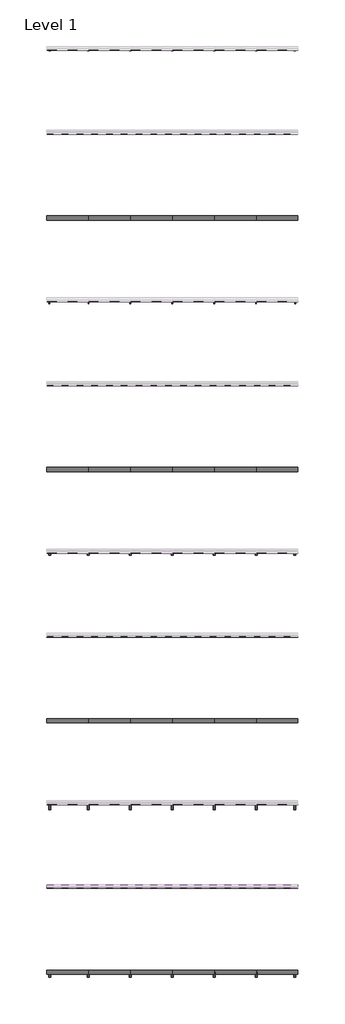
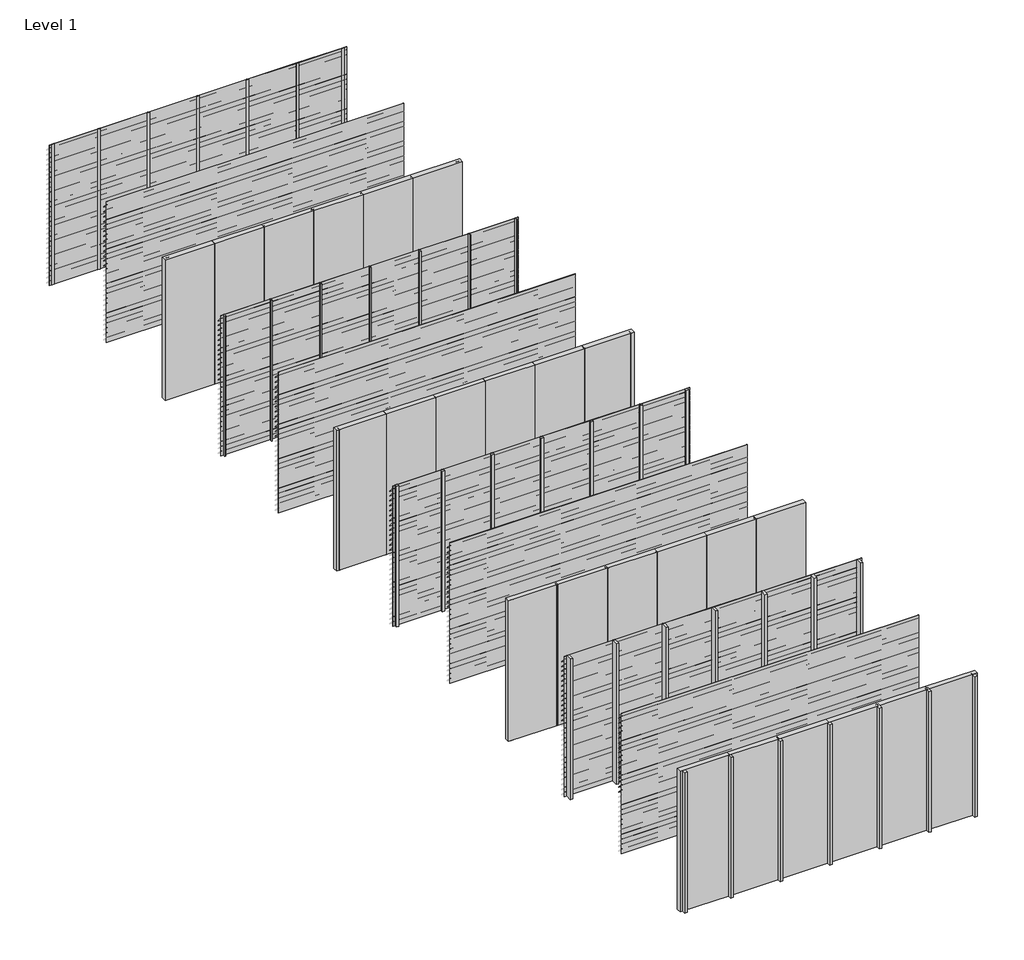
# One storey, part 1 of 9: 56 members, 52 plates, 16 proxies.
"""IFC4 building model written with IfcOpenShell, lengths in millimetres."""

from ifc_helpers import new_model, si_unit, frame, origin, origin_with_axes, place, context, project, spatial, polyline, outline, extrude, transform, mapped, element, save
from components import rectangular_mullion_bbbcbd30, rectangular_mullion_f8d4a220, rectangular_mullion_81aaf6fe, rectangular_mullion_6e08dc26, rectangular_mullion_75c52e10, rectangular_mullion_40295cf1, rectangular_mullion_7f158cb3, rectangular_mullion_66519e13, rectangular_mullion_5829b51c, rectangular_mullion_3b5b8a15, rectangular_mullion_81543344, rectangular_mullion_041a21c4, empty_system_panel_empty_e246a7f8, empty_system_panel_empty_98ea7a2b

model = new_model("IFC4")

# Units and contexts
model_context = context("Model", 3, world=origin())
ifc_project = project(units=[si_unit("LENGTHUNIT", "METRE", prefix="MILLI")], contexts=[model_context])

# Site, building, storey
site = spatial("IfcSite", under=ifc_project)
building = spatial("IfcBuilding", under=site)
storey = spatial("IfcBuildingStorey", under=building, Name="Level 1", Elevation=0.0)

# Proxies
placement = place(None, origin())
element("IfcBuildingElementProxy", 1, Name="Wall Sweeps", at=placement, inside=storey, context=model_context, shape_type="SweptSolid", body=[
    extrude(outline(polyline([(-19995.0, 2940.0), (-19995.0, 2935.6232888), (-19908.0, 2839.0), (-19908.0, 2829.0), (-19997.0, 2927.8445138), (-19997.0, 2940.0), (-19995.0, 2940.0)])), frame((0.0, 0.0, 0.0), z_axis=(1.0, 0.0, 0.0), x_axis=(0.0, 1.0, 0.0)), (0.0, 0.0, 1.0), 6000.0),
])
element("IfcBuildingElementProxy", 2, Name="Wall Sweeps", at=placement, inside=storey, context=model_context, shape_type="SweptSolid", body=[
    extrude(outline(polyline([(-19995.0, 2835.0), (-19995.0, 2830.6232888), (-19908.0, 2734.0), (-19908.0, 2724.0), (-19997.0, 2822.8445138), (-19997.0, 2835.0), (-19995.0, 2835.0)])), frame((0.0, 0.0, 0.0), z_axis=(1.0, 0.0, 0.0), x_axis=(0.0, 1.0, 0.0)), (0.0, 0.0, 1.0), 6000.0),
])
element("IfcBuildingElementProxy", 3, Name="Wall Sweeps", at=placement, inside=storey, context=model_context, shape_type="SweptSolid", body=[
    extrude(outline(polyline([(-19995.0, 2730.0), (-19995.0, 2725.6232888), (-19908.0, 2629.0), (-19908.0, 2619.0), (-19997.0, 2717.8445138), (-19997.0, 2730.0), (-19995.0, 2730.0)])), frame((0.0, 0.0, 0.0), z_axis=(1.0, 0.0, 0.0), x_axis=(0.0, 1.0, 0.0)), (0.0, 0.0, 1.0), 6000.0),
])
element("IfcBuildingElementProxy", 4, Name="Wall Sweeps", at=placement, inside=storey, context=model_context, shape_type="SweptSolid", body=[
    extrude(outline(polyline([(-19995.0, 2625.0), (-19995.0, 2620.6232888), (-19908.0, 2524.0), (-19908.0, 2514.0), (-19997.0, 2612.8445138), (-19997.0, 2625.0), (-19995.0, 2625.0)])), frame((0.0, 0.0, 0.0), z_axis=(1.0, 0.0, 0.0), x_axis=(0.0, 1.0, 0.0)), (0.0, 0.0, 1.0), 6000.0),
])
element("IfcBuildingElementProxy", 5, Name="Wall Sweeps", at=placement, inside=storey, context=model_context, shape_type="SweptSolid", body=[
    extrude(outline(polyline([(-19995.0, 2520.0), (-19995.0, 2515.6232888), (-19908.0, 2419.0), (-19908.0, 2409.0), (-19997.0, 2507.8445138), (-19997.0, 2520.0), (-19995.0, 2520.0)])), frame((0.0, 0.0, 0.0), z_axis=(1.0, 0.0, 0.0), x_axis=(0.0, 1.0, 0.0)), (0.0, 0.0, 1.0), 6000.0),
])
element("IfcBuildingElementProxy", 6, Name="Wall Sweeps", at=placement, inside=storey, context=model_context, shape_type="SweptSolid", body=[
    extrude(outline(polyline([(-19995.0, 2415.0), (-19995.0, 2410.6232888), (-19908.0, 2314.0), (-19908.0, 2304.0), (-19997.0, 2402.8445138), (-19997.0, 2415.0), (-19995.0, 2415.0)])), frame((0.0, 0.0, 0.0), z_axis=(1.0, 0.0, 0.0), x_axis=(0.0, 1.0, 0.0)), (0.0, 0.0, 1.0), 6000.0),
])
element("IfcBuildingElementProxy", 7, Name="Wall Sweeps", at=placement, inside=storey, context=model_context, shape_type="SweptSolid", body=[
    extrude(outline(polyline([(-19995.0, 2310.0), (-19995.0, 2305.6232888), (-19908.0, 2209.0), (-19908.0, 2199.0), (-19997.0, 2297.8445138), (-19997.0, 2310.0), (-19995.0, 2310.0)])), frame((0.0, 0.0, 0.0), z_axis=(1.0, 0.0, 0.0), x_axis=(0.0, 1.0, 0.0)), (0.0, 0.0, 1.0), 6000.0),
])
element("IfcBuildingElementProxy", 8, Name="Wall Sweeps", at=placement, inside=storey, context=model_context, shape_type="SweptSolid", body=[
    extrude(outline(polyline([(-19995.0, 2205.0), (-19995.0, 2200.6232888), (-19908.0, 2104.0), (-19908.0, 2094.0), (-19997.0, 2192.8445138), (-19997.0, 2205.0), (-19995.0, 2205.0)])), frame((0.0, 0.0, 0.0), z_axis=(1.0, 0.0, 0.0), x_axis=(0.0, 1.0, 0.0)), (0.0, 0.0, 1.0), 6000.0),
])
element("IfcBuildingElementProxy", 9, Name="Wall Sweeps", at=placement, inside=storey, context=model_context, shape_type="SweptSolid", body=[
    extrude(outline(polyline([(-19995.0, 2100.0), (-19995.0, 2095.6232888), (-19908.0, 1999.0), (-19908.0, 1989.0), (-19997.0, 2087.8445138), (-19997.0, 2100.0), (-19995.0, 2100.0)])), frame((0.0, 0.0, 0.0), z_axis=(1.0, 0.0, 0.0), x_axis=(0.0, 1.0, 0.0)), (0.0, 0.0, 1.0), 6000.0),
])
element("IfcBuildingElementProxy", 10, Name="Wall Sweeps", at=placement, inside=storey, context=model_context, shape_type="SweptSolid", body=[
    extrude(outline(polyline([(-19995.0, 1995.0), (-19995.0, 1990.6232888), (-19908.0, 1894.0), (-19908.0, 1884.0), (-19997.0, 1982.8445138), (-19997.0, 1995.0), (-19995.0, 1995.0)])), frame((0.0, 0.0, 0.0), z_axis=(1.0, 0.0, 0.0), x_axis=(0.0, 1.0, 0.0)), (0.0, 0.0, 1.0), 6000.0),
])
element("IfcBuildingElementProxy", 11, Name="Wall Sweeps", at=placement, inside=storey, context=model_context, shape_type="SweptSolid", body=[
    extrude(outline(polyline([(-19995.0, 1890.0), (-19995.0, 1885.6232888), (-19908.0, 1789.0), (-19908.0, 1779.0), (-19997.0, 1877.8445138), (-19997.0, 1890.0), (-19995.0, 1890.0)])), frame((0.0, 0.0, 0.0), z_axis=(1.0, 0.0, 0.0), x_axis=(0.0, 1.0, 0.0)), (0.0, 0.0, 1.0), 6000.0),
])
element("IfcBuildingElementProxy", 12, Name="Wall Sweeps", at=placement, inside=storey, context=model_context, shape_type="SweptSolid", body=[
    extrude(outline(polyline([(-19995.0, 1785.0), (-19995.0, 1780.6232888), (-19908.0, 1684.0), (-19908.0, 1674.0), (-19997.0, 1772.8445138), (-19997.0, 1785.0), (-19995.0, 1785.0)])), frame((0.0, 0.0, 0.0), z_axis=(1.0, 0.0, 0.0), x_axis=(0.0, 1.0, 0.0)), (0.0, 0.0, 1.0), 6000.0),
])
element("IfcBuildingElementProxy", 13, Name="Wall Sweeps", at=placement, inside=storey, context=model_context, shape_type="SweptSolid", body=[
    extrude(outline(polyline([(-19995.0, 1680.0), (-19995.0, 1675.6232888), (-19908.0, 1579.0), (-19908.0, 1569.0), (-19997.0, 1667.8445138), (-19997.0, 1680.0), (-19995.0, 1680.0)])), frame((0.0, 0.0, 0.0), z_axis=(1.0, 0.0, 0.0), x_axis=(0.0, 1.0, 0.0)), (0.0, 0.0, 1.0), 6000.0),
])
element("IfcBuildingElementProxy", 14, Name="Wall Sweeps", at=placement, inside=storey, context=model_context, shape_type="SweptSolid", body=[
    extrude(outline(polyline([(-19995.0, 1575.0), (-19995.0, 1570.6232888), (-19908.0, 1474.0), (-19908.0, 1464.0), (-19997.0, 1562.8445138), (-19997.0, 1575.0), (-19995.0, 1575.0)])), frame((0.0, 0.0, 0.0), z_axis=(1.0, 0.0, 0.0), x_axis=(0.0, 1.0, 0.0)), (0.0, 0.0, 1.0), 6000.0),
])
element("IfcBuildingElementProxy", 15, Name="Wall Sweeps", at=placement, inside=storey, context=model_context, shape_type="SweptSolid", body=[
    extrude(outline(polyline([(-19995.0, 1470.0), (-19995.0, 1465.6232888), (-19908.0, 1369.0), (-19908.0, 1359.0), (-19997.0, 1457.8445138), (-19997.0, 1470.0), (-19995.0, 1470.0)])), frame((0.0, 0.0, 0.0), z_axis=(1.0, 0.0, 0.0), x_axis=(0.0, 1.0, 0.0)), (0.0, 0.0, 1.0), 6000.0),
])
element("IfcBuildingElementProxy", 16, Name="Wall Sweeps", at=placement, inside=storey, context=model_context, shape_type="SweptSolid", body=[
    extrude(outline(polyline([(-19995.0, 1365.0), (-19995.0, 1360.6232888), (-19908.0, 1264.0), (-19908.0, 1254.0), (-19997.0, 1352.8445138), (-19997.0, 1365.0), (-19995.0, 1365.0)])), frame((0.0, 0.0, 0.0), z_axis=(1.0, 0.0, 0.0), x_axis=(0.0, 1.0, 0.0)), (0.0, 0.0, 1.0), 6000.0),
])

# Members
rectangular_mullion_shape = rectangular_mullion_bbbcbd30(model_context)
element("IfcMember", 17, ObjectType="Rectangular Mullion : RSen_21_CWM_support profile - 50x12 - left_gen_duco projects", at=placement, inside=storey, context=model_context, shape_type="MappedRepresentation", body=[
    mapped(rectangular_mullion_shape, transform((0.0, 0.0, 0.0), x_axis=(-1.0, 0.0, 0.0), y_axis=(0.0, 1.0, 0.0), z_axis=(0.0, 0.0, -1.0))),
])
element("IfcMember", 18, ObjectType="Rectangular Mullion : RSen_21_CWM_support profile - 50x12 - left_gen_duco projects", at=placement, inside=storey, context=model_context, shape_type="MappedRepresentation", body=[
    mapped(rectangular_mullion_shape, transform((0.0, -4000.0, 0.0), x_axis=(-1.0, 0.0, 0.0), y_axis=(0.0, 1.0, 0.0), z_axis=(0.0, 0.0, -1.0))),
])
rectangular_mullion_2_shape = rectangular_mullion_f8d4a220(model_context)
element("IfcMember", 19, ObjectType="Rectangular Mullion : RSen_21_CWM_support profile - 50x12 - right_gen_duco projects", at=placement, inside=storey, context=model_context, shape_type="MappedRepresentation", body=[
    mapped(rectangular_mullion_2_shape, transform((6000.0, 0.0, 3000.0), x_axis=(1.0, 0.0, 0.0), y_axis=(0.0, 1.0, 0.0), z_axis=(0.0, 0.0, 1.0))),
])
element("IfcMember", 20, ObjectType="Rectangular Mullion : RSen_21_CWM_support profile - 50x12 - right_gen_duco projects", at=placement, inside=storey, context=model_context, shape_type="MappedRepresentation", body=[
    mapped(rectangular_mullion_2_shape, transform((6000.0, -4000.0, 3000.0), x_axis=(1.0, 0.0, 0.0), y_axis=(0.0, 1.0, 0.0), z_axis=(0.0, 0.0, 1.0))),
])
rectangular_mullion_3_shape = rectangular_mullion_81aaf6fe(model_context)
element("IfcMember", 21, ObjectType="Rectangular Mullion : RSen_21_CWM_support profile - 21x50 Multi - left_gen_duco projects", at=placement, inside=storey, context=model_context, shape_type="MappedRepresentation", body=[
    mapped(rectangular_mullion_3_shape, transform((0.0, -6000.0, 0.0), x_axis=(-1.0, 0.0, 0.0), y_axis=(0.0, 1.0, 0.0), z_axis=(0.0, 0.0, -1.0))),
])
element("IfcMember", 22, ObjectType="Rectangular Mullion : RSen_21_CWM_support profile - 21x50 Multi - left_gen_duco projects", at=placement, inside=storey, context=model_context, shape_type="MappedRepresentation", body=[
    mapped(rectangular_mullion_3_shape, transform((0.0, -10000.0, 0.0), x_axis=(-1.0, 0.0, 0.0), y_axis=(0.0, 1.0, 0.0), z_axis=(0.0, 0.0, -1.0))),
])
rectangular_mullion_4_shape = rectangular_mullion_6e08dc26(model_context)
element("IfcMember", 23, ObjectType="Rectangular Mullion : RSen_21_CWM_support profile - 21x50 Multi - right_gen_duco projects", at=placement, inside=storey, context=model_context, shape_type="MappedRepresentation", body=[
    mapped(rectangular_mullion_4_shape, transform((6000.0, -6000.0, 3000.0), x_axis=(1.0, 0.0, 0.0), y_axis=(0.0, 1.0, 0.0), z_axis=(0.0, 0.0, 1.0))),
])
element("IfcMember", 24, ObjectType="Rectangular Mullion : RSen_21_CWM_support profile - 21x50 Multi - right_gen_duco projects", at=placement, inside=storey, context=model_context, shape_type="MappedRepresentation", body=[
    mapped(rectangular_mullion_4_shape, transform((6000.0, -10000.0, 3000.0), x_axis=(1.0, 0.0, 0.0), y_axis=(0.0, 1.0, 0.0), z_axis=(0.0, 0.0, 1.0))),
])
rectangular_mullion_5_shape = rectangular_mullion_75c52e10(model_context)
element("IfcMember", 25, ObjectType="Rectangular Mullion : RSen_21_CWM_support profile - 50x50 - left_gen_duco projects", at=placement, inside=storey, context=model_context, shape_type="MappedRepresentation", body=[
    mapped(rectangular_mullion_5_shape, transform((0.0, -12000.0, 0.0), x_axis=(-1.0, 0.0, 0.0), y_axis=(0.0, 1.0, 0.0), z_axis=(0.0, 0.0, -1.0))),
])
element("IfcMember", 26, ObjectType="Rectangular Mullion : RSen_21_CWM_support profile - 50x50 - left_gen_duco projects", at=placement, inside=storey, context=model_context, shape_type="MappedRepresentation", body=[
    mapped(rectangular_mullion_5_shape, transform((0.0, -16000.0, 0.0), x_axis=(-1.0, 0.0, 0.0), y_axis=(0.0, 1.0, 0.0), z_axis=(0.0, 0.0, -1.0))),
])
rectangular_mullion_6_shape = rectangular_mullion_40295cf1(model_context)
element("IfcMember", 27, ObjectType="Rectangular Mullion : RSen_21_CWM_support profile - 50x50 - right_gen_duco projects", at=placement, inside=storey, context=model_context, shape_type="MappedRepresentation", body=[
    mapped(rectangular_mullion_6_shape, transform((6000.0, -12000.0, 3000.0), x_axis=(1.0, 0.0, 0.0), y_axis=(0.0, 1.0, 0.0), z_axis=(0.0, 0.0, 1.0))),
])
element("IfcMember", 28, ObjectType="Rectangular Mullion : RSen_21_CWM_support profile - 50x50 - right_gen_duco projects", at=placement, inside=storey, context=model_context, shape_type="MappedRepresentation", body=[
    mapped(rectangular_mullion_6_shape, transform((6000.0, -16000.0, 3000.0), x_axis=(1.0, 0.0, 0.0), y_axis=(0.0, 1.0, 0.0), z_axis=(0.0, 0.0, 1.0))),
])
rectangular_mullion_7_shape = rectangular_mullion_7f158cb3(model_context)
element("IfcMember", 29, ObjectType="Rectangular Mullion : RSen_21_CWM_support profile - 50x12_gen_duco projects", at=placement, inside=storey, context=model_context, shape_type="MappedRepresentation", body=[
    mapped(rectangular_mullion_7_shape, transform((5000.0, 0.0, 0.0), x_axis=(-1.0, 0.0, 0.0), y_axis=(0.0, 1.0, 0.0), z_axis=(0.0, 0.0, -1.0))),
])
element("IfcMember", 30, ObjectType="Rectangular Mullion : RSen_21_CWM_support profile - 50x12_gen_duco projects", at=placement, inside=storey, context=model_context, shape_type="MappedRepresentation", body=[
    mapped(rectangular_mullion_7_shape, transform((4000.0, 0.0, 0.0), x_axis=(-1.0, 0.0, 0.0), y_axis=(0.0, 1.0, 0.0), z_axis=(0.0, 0.0, -1.0))),
])
element("IfcMember", 31, ObjectType="Rectangular Mullion : RSen_21_CWM_support profile - 50x12_gen_duco projects", at=placement, inside=storey, context=model_context, shape_type="MappedRepresentation", body=[
    mapped(rectangular_mullion_7_shape, transform((3000.0, 0.0, 0.0), x_axis=(-1.0, 0.0, 0.0), y_axis=(0.0, 1.0, 0.0), z_axis=(0.0, 0.0, -1.0))),
])
element("IfcMember", 32, ObjectType="Rectangular Mullion : RSen_21_CWM_support profile - 50x12_gen_duco projects", at=placement, inside=storey, context=model_context, shape_type="MappedRepresentation", body=[
    mapped(rectangular_mullion_7_shape, transform((2000.0, 0.0, 0.0), x_axis=(-1.0, 0.0, 0.0), y_axis=(0.0, 1.0, 0.0), z_axis=(0.0, 0.0, -1.0))),
])
element("IfcMember", 33, ObjectType="Rectangular Mullion : RSen_21_CWM_support profile - 50x12_gen_duco projects", at=placement, inside=storey, context=model_context, shape_type="MappedRepresentation", body=[
    mapped(rectangular_mullion_7_shape, transform((1000.0, 0.0, 0.0), x_axis=(-1.0, 0.0, 0.0), y_axis=(0.0, 1.0, 0.0), z_axis=(0.0, 0.0, -1.0))),
])
element("IfcMember", 34, ObjectType="Rectangular Mullion : RSen_21_CWM_support profile - 50x12_gen_duco projects", at=placement, inside=storey, context=model_context, shape_type="MappedRepresentation", body=[
    mapped(rectangular_mullion_7_shape, transform((5000.0, -4000.0, 0.0), x_axis=(-1.0, 0.0, 0.0), y_axis=(0.0, 1.0, 0.0), z_axis=(0.0, 0.0, -1.0))),
])
element("IfcMember", 35, ObjectType="Rectangular Mullion : RSen_21_CWM_support profile - 50x12_gen_duco projects", at=placement, inside=storey, context=model_context, shape_type="MappedRepresentation", body=[
    mapped(rectangular_mullion_7_shape, transform((4000.0, -4000.0, 0.0), x_axis=(-1.0, 0.0, 0.0), y_axis=(0.0, 1.0, 0.0), z_axis=(0.0, 0.0, -1.0))),
])
element("IfcMember", 36, ObjectType="Rectangular Mullion : RSen_21_CWM_support profile - 50x12_gen_duco projects", at=placement, inside=storey, context=model_context, shape_type="MappedRepresentation", body=[
    mapped(rectangular_mullion_7_shape, transform((3000.0, -4000.0, 0.0), x_axis=(-1.0, 0.0, 0.0), y_axis=(0.0, 1.0, 0.0), z_axis=(0.0, 0.0, -1.0))),
])
element("IfcMember", 37, ObjectType="Rectangular Mullion : RSen_21_CWM_support profile - 50x12_gen_duco projects", at=placement, inside=storey, context=model_context, shape_type="MappedRepresentation", body=[
    mapped(rectangular_mullion_7_shape, transform((2000.0, -4000.0, 0.0), x_axis=(-1.0, 0.0, 0.0), y_axis=(0.0, 1.0, 0.0), z_axis=(0.0, 0.0, -1.0))),
])
element("IfcMember", 38, ObjectType="Rectangular Mullion : RSen_21_CWM_support profile - 50x12_gen_duco projects", at=placement, inside=storey, context=model_context, shape_type="MappedRepresentation", body=[
    mapped(rectangular_mullion_7_shape, transform((1000.0, -4000.0, 0.0), x_axis=(-1.0, 0.0, 0.0), y_axis=(0.0, 1.0, 0.0), z_axis=(0.0, 0.0, -1.0))),
])
rectangular_mullion_8_shape = rectangular_mullion_66519e13(model_context)
element("IfcMember", 39, ObjectType="Rectangular Mullion : RSen_21_CWM_support profile - 21x50 Multi_gen_duco projects", at=placement, inside=storey, context=model_context, shape_type="MappedRepresentation", body=[
    mapped(rectangular_mullion_8_shape, transform((5000.0, -6000.0, 0.0), x_axis=(-1.0, 0.0, 0.0), y_axis=(0.0, 1.0, 0.0), z_axis=(0.0, 0.0, -1.0))),
])
element("IfcMember", 40, ObjectType="Rectangular Mullion : RSen_21_CWM_support profile - 21x50 Multi_gen_duco projects", at=placement, inside=storey, context=model_context, shape_type="MappedRepresentation", body=[
    mapped(rectangular_mullion_8_shape, transform((4000.0, -6000.0, 0.0), x_axis=(-1.0, 0.0, 0.0), y_axis=(0.0, 1.0, 0.0), z_axis=(0.0, 0.0, -1.0))),
])
element("IfcMember", 41, ObjectType="Rectangular Mullion : RSen_21_CWM_support profile - 21x50 Multi_gen_duco projects", at=placement, inside=storey, context=model_context, shape_type="MappedRepresentation", body=[
    mapped(rectangular_mullion_8_shape, transform((3000.0, -6000.0, 0.0), x_axis=(-1.0, 0.0, 0.0), y_axis=(0.0, 1.0, 0.0), z_axis=(0.0, 0.0, -1.0))),
])
element("IfcMember", 42, ObjectType="Rectangular Mullion : RSen_21_CWM_support profile - 21x50 Multi_gen_duco projects", at=placement, inside=storey, context=model_context, shape_type="MappedRepresentation", body=[
    mapped(rectangular_mullion_8_shape, transform((2000.0, -6000.0, 0.0), x_axis=(-1.0, 0.0, 0.0), y_axis=(0.0, 1.0, 0.0), z_axis=(0.0, 0.0, -1.0))),
])
element("IfcMember", 43, ObjectType="Rectangular Mullion : RSen_21_CWM_support profile - 21x50 Multi_gen_duco projects", at=placement, inside=storey, context=model_context, shape_type="MappedRepresentation", body=[
    mapped(rectangular_mullion_8_shape, transform((1000.0, -6000.0, 0.0), x_axis=(-1.0, 0.0, 0.0), y_axis=(0.0, 1.0, 0.0), z_axis=(0.0, 0.0, -1.0))),
])
element("IfcMember", 44, ObjectType="Rectangular Mullion : RSen_21_CWM_support profile - 21x50 Multi_gen_duco projects", at=placement, inside=storey, context=model_context, shape_type="MappedRepresentation", body=[
    mapped(rectangular_mullion_8_shape, transform((5000.0, -10000.0, 0.0), x_axis=(-1.0, 0.0, 0.0), y_axis=(0.0, 1.0, 0.0), z_axis=(0.0, 0.0, -1.0))),
])
element("IfcMember", 45, ObjectType="Rectangular Mullion : RSen_21_CWM_support profile - 21x50 Multi_gen_duco projects", at=placement, inside=storey, context=model_context, shape_type="MappedRepresentation", body=[
    mapped(rectangular_mullion_8_shape, transform((4000.0, -10000.0, 0.0), x_axis=(-1.0, 0.0, 0.0), y_axis=(0.0, 1.0, 0.0), z_axis=(0.0, 0.0, -1.0))),
])
element("IfcMember", 46, ObjectType="Rectangular Mullion : RSen_21_CWM_support profile - 21x50 Multi_gen_duco projects", at=placement, inside=storey, context=model_context, shape_type="MappedRepresentation", body=[
    mapped(rectangular_mullion_8_shape, transform((3000.0, -10000.0, 0.0), x_axis=(-1.0, 0.0, 0.0), y_axis=(0.0, 1.0, 0.0), z_axis=(0.0, 0.0, -1.0))),
])
element("IfcMember", 47, ObjectType="Rectangular Mullion : RSen_21_CWM_support profile - 21x50 Multi_gen_duco projects", at=placement, inside=storey, context=model_context, shape_type="MappedRepresentation", body=[
    mapped(rectangular_mullion_8_shape, transform((2000.0, -10000.0, 0.0), x_axis=(-1.0, 0.0, 0.0), y_axis=(0.0, 1.0, 0.0), z_axis=(0.0, 0.0, -1.0))),
])
element("IfcMember", 48, ObjectType="Rectangular Mullion : RSen_21_CWM_support profile - 21x50 Multi_gen_duco projects", at=placement, inside=storey, context=model_context, shape_type="MappedRepresentation", body=[
    mapped(rectangular_mullion_8_shape, transform((1000.0, -10000.0, 0.0), x_axis=(-1.0, 0.0, 0.0), y_axis=(0.0, 1.0, 0.0), z_axis=(0.0, 0.0, -1.0))),
])
rectangular_mullion_9_shape = rectangular_mullion_5829b51c(model_context)
element("IfcMember", 49, ObjectType="Rectangular Mullion : RSen_21_CWM_support profile - 50x50_gen_duco projects", at=placement, inside=storey, context=model_context, shape_type="MappedRepresentation", body=[
    mapped(rectangular_mullion_9_shape, transform((5000.0, -12000.0, 0.0), x_axis=(-1.0, 0.0, 0.0), y_axis=(0.0, 1.0, 0.0), z_axis=(0.0, 0.0, -1.0))),
])
element("IfcMember", 50, ObjectType="Rectangular Mullion : RSen_21_CWM_support profile - 50x50_gen_duco projects", at=placement, inside=storey, context=model_context, shape_type="MappedRepresentation", body=[
    mapped(rectangular_mullion_9_shape, transform((4000.0, -12000.0, 0.0), x_axis=(-1.0, 0.0, 0.0), y_axis=(0.0, 1.0, 0.0), z_axis=(0.0, 0.0, -1.0))),
])
element("IfcMember", 51, ObjectType="Rectangular Mullion : RSen_21_CWM_support profile - 50x50_gen_duco projects", at=placement, inside=storey, context=model_context, shape_type="MappedRepresentation", body=[
    mapped(rectangular_mullion_9_shape, transform((3000.0, -12000.0, 0.0), x_axis=(-1.0, 0.0, 0.0), y_axis=(0.0, 1.0, 0.0), z_axis=(0.0, 0.0, -1.0))),
])
element("IfcMember", 52, ObjectType="Rectangular Mullion : RSen_21_CWM_support profile - 50x50_gen_duco projects", at=placement, inside=storey, context=model_context, shape_type="MappedRepresentation", body=[
    mapped(rectangular_mullion_9_shape, transform((2000.0, -12000.0, 0.0), x_axis=(-1.0, 0.0, 0.0), y_axis=(0.0, 1.0, 0.0), z_axis=(0.0, 0.0, -1.0))),
])
element("IfcMember", 53, ObjectType="Rectangular Mullion : RSen_21_CWM_support profile - 50x50_gen_duco projects", at=placement, inside=storey, context=model_context, shape_type="MappedRepresentation", body=[
    mapped(rectangular_mullion_9_shape, transform((1000.0, -12000.0, 0.0), x_axis=(-1.0, 0.0, 0.0), y_axis=(0.0, 1.0, 0.0), z_axis=(0.0, 0.0, -1.0))),
])
element("IfcMember", 54, ObjectType="Rectangular Mullion : RSen_21_CWM_support profile - 50x50_gen_duco projects", at=placement, inside=storey, context=model_context, shape_type="MappedRepresentation", body=[
    mapped(rectangular_mullion_9_shape, transform((5000.0, -16000.0, 0.0), x_axis=(-1.0, 0.0, 0.0), y_axis=(0.0, 1.0, 0.0), z_axis=(0.0, 0.0, -1.0))),
])
element("IfcMember", 55, ObjectType="Rectangular Mullion : RSen_21_CWM_support profile - 50x50_gen_duco projects", at=placement, inside=storey, context=model_context, shape_type="MappedRepresentation", body=[
    mapped(rectangular_mullion_9_shape, transform((4000.0, -16000.0, 0.0), x_axis=(-1.0, 0.0, 0.0), y_axis=(0.0, 1.0, 0.0), z_axis=(0.0, 0.0, -1.0))),
])
element("IfcMember", 56, ObjectType="Rectangular Mullion : RSen_21_CWM_support profile - 50x50_gen_duco projects", at=placement, inside=storey, context=model_context, shape_type="MappedRepresentation", body=[
    mapped(rectangular_mullion_9_shape, transform((3000.0, -16000.0, 0.0), x_axis=(-1.0, 0.0, 0.0), y_axis=(0.0, 1.0, 0.0), z_axis=(0.0, 0.0, -1.0))),
])
element("IfcMember", 57, ObjectType="Rectangular Mullion : RSen_21_CWM_support profile - 50x50_gen_duco projects", at=placement, inside=storey, context=model_context, shape_type="MappedRepresentation", body=[
    mapped(rectangular_mullion_9_shape, transform((2000.0, -16000.0, 0.0), x_axis=(-1.0, 0.0, 0.0), y_axis=(0.0, 1.0, 0.0), z_axis=(0.0, 0.0, -1.0))),
])
element("IfcMember", 58, ObjectType="Rectangular Mullion : RSen_21_CWM_support profile - 50x50_gen_duco projects", at=placement, inside=storey, context=model_context, shape_type="MappedRepresentation", body=[
    mapped(rectangular_mullion_9_shape, transform((1000.0, -16000.0, 0.0), x_axis=(-1.0, 0.0, 0.0), y_axis=(0.0, 1.0, 0.0), z_axis=(0.0, 0.0, -1.0))),
])
rectangular_mullion_10_shape = rectangular_mullion_3b5b8a15(model_context)
element("IfcMember", 59, ObjectType="Rectangular Mullion : RSen_21_CWM_support profile - 50x125_gen_duco projects", at=placement, inside=storey, context=model_context, shape_type="MappedRepresentation", body=[
    mapped(rectangular_mullion_10_shape, transform((1000.0000002, -18000.0, 0.0), x_axis=(1.0, 0.0, 0.0), y_axis=(0.0, -1.0, 0.0), z_axis=(0.0, 0.0, -1.0))),
])
element("IfcMember", 60, ObjectType="Rectangular Mullion : RSen_21_CWM_support profile - 50x125_gen_duco projects", at=placement, inside=storey, context=model_context, shape_type="MappedRepresentation", body=[
    mapped(rectangular_mullion_10_shape, transform((2000.0000001, -18000.0, 0.0), x_axis=(1.0, 0.0, 0.0), y_axis=(0.0, -1.0, 0.0), z_axis=(0.0, 0.0, -1.0))),
])
element("IfcMember", 61, ObjectType="Rectangular Mullion : RSen_21_CWM_support profile - 50x125_gen_duco projects", at=placement, inside=storey, context=model_context, shape_type="MappedRepresentation", body=[
    mapped(rectangular_mullion_10_shape, transform((3000.0, -18000.0, 0.0), x_axis=(1.0, 0.0, 0.0), y_axis=(0.0, -1.0, 0.0), z_axis=(0.0, 0.0, -1.0))),
])
element("IfcMember", 62, ObjectType="Rectangular Mullion : RSen_21_CWM_support profile - 50x125_gen_duco projects", at=placement, inside=storey, context=model_context, shape_type="MappedRepresentation", body=[
    mapped(rectangular_mullion_10_shape, transform((3999.9999999, -18000.0, 0.0), x_axis=(1.0, 0.0, 0.0), y_axis=(0.0, -1.0, 0.0), z_axis=(0.0, 0.0, -1.0))),
])
element("IfcMember", 63, ObjectType="Rectangular Mullion : RSen_21_CWM_support profile - 50x125_gen_duco projects", at=placement, inside=storey, context=model_context, shape_type="MappedRepresentation", body=[
    mapped(rectangular_mullion_10_shape, transform((4999.9999998, -18000.0, 0.0), x_axis=(1.0, 0.0, 0.0), y_axis=(0.0, -1.0, 0.0), z_axis=(0.0, 0.0, -1.0))),
])
element("IfcMember", 64, ObjectType="Rectangular Mullion : RSen_21_CWM_support profile - 50x125_gen_duco projects", at=placement, inside=storey, context=model_context, shape_type="MappedRepresentation", body=[
    mapped(rectangular_mullion_10_shape, transform((1000.0000002, -22000.0, 0.0), x_axis=(1.0, 0.0, 0.0), y_axis=(0.0, -1.0, 0.0), z_axis=(0.0, 0.0, -1.0))),
])
element("IfcMember", 65, ObjectType="Rectangular Mullion : RSen_21_CWM_support profile - 50x125_gen_duco projects", at=placement, inside=storey, context=model_context, shape_type="MappedRepresentation", body=[
    mapped(rectangular_mullion_10_shape, transform((2000.0000001, -22000.0, 0.0), x_axis=(1.0, 0.0, 0.0), y_axis=(0.0, -1.0, 0.0), z_axis=(0.0, 0.0, -1.0))),
])
element("IfcMember", 66, ObjectType="Rectangular Mullion : RSen_21_CWM_support profile - 50x125_gen_duco projects", at=placement, inside=storey, context=model_context, shape_type="MappedRepresentation", body=[
    mapped(rectangular_mullion_10_shape, transform((3000.0, -22000.0, 0.0), x_axis=(1.0, 0.0, 0.0), y_axis=(0.0, -1.0, 0.0), z_axis=(0.0, 0.0, -1.0))),
])
element("IfcMember", 67, ObjectType="Rectangular Mullion : RSen_21_CWM_support profile - 50x125_gen_duco projects", at=placement, inside=storey, context=model_context, shape_type="MappedRepresentation", body=[
    mapped(rectangular_mullion_10_shape, transform((3999.9999999, -22000.0, 0.0), x_axis=(1.0, 0.0, 0.0), y_axis=(0.0, -1.0, 0.0), z_axis=(0.0, 0.0, -1.0))),
])
element("IfcMember", 68, ObjectType="Rectangular Mullion : RSen_21_CWM_support profile - 50x125_gen_duco projects", at=placement, inside=storey, context=model_context, shape_type="MappedRepresentation", body=[
    mapped(rectangular_mullion_10_shape, transform((4999.9999998, -22000.0, 0.0), x_axis=(1.0, 0.0, 0.0), y_axis=(0.0, -1.0, 0.0), z_axis=(0.0, 0.0, -1.0))),
])
rectangular_mullion_11_shape = rectangular_mullion_81543344(model_context)
element("IfcMember", 69, ObjectType="Rectangular Mullion : RSen_21_CWM_support profile - 50x125 - left_gen_duco projects", at=placement, inside=storey, context=model_context, shape_type="MappedRepresentation", body=[
    mapped(rectangular_mullion_11_shape, transform((6000.0, -18000.0, 0.0), x_axis=(1.0, 0.0, 0.0), y_axis=(0.0, -1.0, 0.0), z_axis=(0.0, 0.0, -1.0))),
])
element("IfcMember", 70, ObjectType="Rectangular Mullion : RSen_21_CWM_support profile - 50x125 - left_gen_duco projects", at=placement, inside=storey, context=model_context, shape_type="MappedRepresentation", body=[
    mapped(rectangular_mullion_11_shape, transform((6000.0, -22000.0, 0.0), x_axis=(1.0, 0.0, 0.0), y_axis=(0.0, -1.0, 0.0), z_axis=(0.0, 0.0, -1.0))),
])
rectangular_mullion_12_shape = rectangular_mullion_041a21c4(model_context)
element("IfcMember", 71, ObjectType="Rectangular Mullion : RSen_21_CWM_support profile - 50x125 - right_gen_duco projects", at=placement, inside=storey, context=model_context, shape_type="MappedRepresentation", body=[
    mapped(rectangular_mullion_12_shape, transform((0.0, -18000.0, 3000.0), x_axis=(-1.0, 0.0, 0.0), y_axis=(0.0, -1.0, 0.0), z_axis=(0.0, 0.0, 1.0))),
])
element("IfcMember", 72, ObjectType="Rectangular Mullion : RSen_21_CWM_support profile - 50x125 - right_gen_duco projects", at=placement, inside=storey, context=model_context, shape_type="MappedRepresentation", body=[
    mapped(rectangular_mullion_12_shape, transform((0.0, -22000.0, 3000.0), x_axis=(-1.0, 0.0, 0.0), y_axis=(0.0, -1.0, 0.0), z_axis=(0.0, 0.0, 1.0))),
])

# Plates
element("IfcPlate", 73, ObjectType="RSen_21_WA_louvre blade classic W 90HP_gen_duco projects", at=placement, inside=storey, context=model_context, shape_type="SweptSolid", body=[
    extrude(outline(polyline([(0.0, 1.0), (1000.0, 1.0), (1000.0, -1.0), (0.0, -1.0), (0.0, 1.0)])), origin_with_axes(), (0.0, 0.0, 1.0), 3000.0),
])
element("IfcPlate", 74, ObjectType="RSen_21_WA_louvre blade classic W 90HP_gen_duco projects", at=placement, inside=storey, context=model_context, shape_type="SweptSolid", body=[
    extrude(outline(polyline([(1000.0, 1.0), (2000.0, 1.0), (2000.0, -1.0), (1000.0, -1.0), (1000.0, 1.0)])), origin_with_axes(), (0.0, 0.0, 1.0), 3000.0),
])
element("IfcPlate", 75, ObjectType="RSen_21_WA_louvre blade classic W 90HP_gen_duco projects", at=placement, inside=storey, context=model_context, shape_type="SweptSolid", body=[
    extrude(outline(polyline([(2000.0, 1.0), (3000.0, 1.0), (3000.0, -1.0), (2000.0, -1.0), (2000.0, 1.0)])), origin_with_axes(), (0.0, 0.0, 1.0), 3000.0),
])
element("IfcPlate", 76, ObjectType="RSen_21_WA_louvre blade classic W 90HP_gen_duco projects", at=placement, inside=storey, context=model_context, shape_type="SweptSolid", body=[
    extrude(outline(polyline([(3000.0, 1.0), (4000.0, 1.0), (4000.0, -1.0), (3000.0, -1.0), (3000.0, 1.0)])), origin_with_axes(), (0.0, 0.0, 1.0), 3000.0),
])
element("IfcPlate", 77, ObjectType="RSen_21_WA_louvre blade classic W 90HP_gen_duco projects", at=placement, inside=storey, context=model_context, shape_type="SweptSolid", body=[
    extrude(outline(polyline([(4000.0, 1.0), (5000.0, 1.0), (5000.0, -1.0), (4000.0, -1.0), (4000.0, 1.0)])), origin_with_axes(), (0.0, 0.0, 1.0), 3000.0),
])
element("IfcPlate", 78, ObjectType="RSen_21_WA_louvre blade classic W 90HP_gen_duco projects", at=placement, inside=storey, context=model_context, shape_type="SweptSolid", body=[
    extrude(outline(polyline([(5000.0, 1.0), (6000.0, 1.0), (6000.0, -1.0), (5000.0, -1.0), (5000.0, 1.0)])), origin_with_axes(), (0.0, 0.0, 1.0), 3000.0),
])
element("IfcPlate", 79, ObjectType="RSen_21_WA_louvre blade classic W 90HP_gen_duco projects", at=placement, inside=storey, context=model_context, shape_type="SweptSolid", body=[
    extrude(outline(polyline([(0.0, -1999.0), (6000.0, -1999.0), (6000.0, -2001.0), (0.0, -2001.0), (0.0, -1999.0)])), origin_with_axes(), (0.0, 0.0, 1.0), 3000.0),
])
element("IfcPlate", 80, ObjectType="RSen_21_WA_louvre blade classic W 90HP_gen_duco projects", at=placement, inside=storey, context=model_context, shape_type="SweptSolid", body=[
    extrude(outline(polyline([(0.0, -5999.0), (1000.0, -5999.0), (1000.0, -6001.0), (0.0, -6001.0), (0.0, -5999.0)])), origin_with_axes(), (0.0, 0.0, 1.0), 3000.0),
])
element("IfcPlate", 81, ObjectType="RSen_21_WA_louvre blade classic W 90HP_gen_duco projects", at=placement, inside=storey, context=model_context, shape_type="SweptSolid", body=[
    extrude(outline(polyline([(1000.0, -5999.0), (2000.0, -5999.0), (2000.0, -6001.0), (1000.0, -6001.0), (1000.0, -5999.0)])), origin_with_axes(), (0.0, 0.0, 1.0), 3000.0),
])
element("IfcPlate", 82, ObjectType="RSen_21_WA_louvre blade classic W 90HP_gen_duco projects", at=placement, inside=storey, context=model_context, shape_type="SweptSolid", body=[
    extrude(outline(polyline([(2000.0, -5999.0), (3000.0, -5999.0), (3000.0, -6001.0), (2000.0, -6001.0), (2000.0, -5999.0)])), origin_with_axes(), (0.0, 0.0, 1.0), 3000.0),
])
element("IfcPlate", 83, ObjectType="RSen_21_WA_louvre blade classic W 90HP_gen_duco projects", at=placement, inside=storey, context=model_context, shape_type="SweptSolid", body=[
    extrude(outline(polyline([(3000.0, -5999.0), (4000.0, -5999.0), (4000.0, -6001.0), (3000.0, -6001.0), (3000.0, -5999.0)])), origin_with_axes(), (0.0, 0.0, 1.0), 3000.0),
])
element("IfcPlate", 84, ObjectType="RSen_21_WA_louvre blade classic W 90HP_gen_duco projects", at=placement, inside=storey, context=model_context, shape_type="SweptSolid", body=[
    extrude(outline(polyline([(4000.0, -5999.0), (5000.0, -5999.0), (5000.0, -6001.0), (4000.0, -6001.0), (4000.0, -5999.0)])), origin_with_axes(), (0.0, 0.0, 1.0), 3000.0),
])
element("IfcPlate", 85, ObjectType="RSen_21_WA_louvre blade classic W 90HP_gen_duco projects", at=placement, inside=storey, context=model_context, shape_type="SweptSolid", body=[
    extrude(outline(polyline([(5000.0, -5999.0), (6000.0, -5999.0), (6000.0, -6001.0), (5000.0, -6001.0), (5000.0, -5999.0)])), origin_with_axes(), (0.0, 0.0, 1.0), 3000.0),
])
element("IfcPlate", 86, ObjectType="RSen_21_WA_louvre blade classic W 90HP_gen_duco projects", at=placement, inside=storey, context=model_context, shape_type="SweptSolid", body=[
    extrude(outline(polyline([(0.0, -7999.0), (6000.0, -7999.0), (6000.0, -8001.0), (0.0, -8001.0), (0.0, -7999.0)])), origin_with_axes(), (0.0, 0.0, 1.0), 3000.0),
])
element("IfcPlate", 87, ObjectType="RSen_21_WA_louvre blade classic W 90HP_gen_duco projects", at=placement, inside=storey, context=model_context, shape_type="SweptSolid", body=[
    extrude(outline(polyline([(0.0, -11999.0), (1000.0, -11999.0), (1000.0, -12001.0), (0.0, -12001.0), (0.0, -11999.0)])), origin_with_axes(), (0.0, 0.0, 1.0), 3000.0),
])
element("IfcPlate", 88, ObjectType="RSen_21_WA_louvre blade classic W 90HP_gen_duco projects", at=placement, inside=storey, context=model_context, shape_type="SweptSolid", body=[
    extrude(outline(polyline([(1000.0, -11999.0), (2000.0, -11999.0), (2000.0, -12001.0), (1000.0, -12001.0), (1000.0, -11999.0)])), origin_with_axes(), (0.0, 0.0, 1.0), 3000.0),
])
element("IfcPlate", 89, ObjectType="RSen_21_WA_louvre blade classic W 90HP_gen_duco projects", at=placement, inside=storey, context=model_context, shape_type="SweptSolid", body=[
    extrude(outline(polyline([(2000.0, -11999.0), (3000.0, -11999.0), (3000.0, -12001.0), (2000.0, -12001.0), (2000.0, -11999.0)])), origin_with_axes(), (0.0, 0.0, 1.0), 3000.0),
])
element("IfcPlate", 90, ObjectType="RSen_21_WA_louvre blade classic W 90HP_gen_duco projects", at=placement, inside=storey, context=model_context, shape_type="SweptSolid", body=[
    extrude(outline(polyline([(3000.0, -11999.0), (4000.0, -11999.0), (4000.0, -12001.0), (3000.0, -12001.0), (3000.0, -11999.0)])), origin_with_axes(), (0.0, 0.0, 1.0), 3000.0),
])
element("IfcPlate", 91, ObjectType="RSen_21_WA_louvre blade classic W 90HP_gen_duco projects", at=placement, inside=storey, context=model_context, shape_type="SweptSolid", body=[
    extrude(outline(polyline([(4000.0, -11999.0), (5000.0, -11999.0), (5000.0, -12001.0), (4000.0, -12001.0), (4000.0, -11999.0)])), origin_with_axes(), (0.0, 0.0, 1.0), 3000.0),
])
element("IfcPlate", 92, ObjectType="RSen_21_WA_louvre blade classic W 90HP_gen_duco projects", at=placement, inside=storey, context=model_context, shape_type="SweptSolid", body=[
    extrude(outline(polyline([(5000.0, -11999.0), (6000.0, -11999.0), (6000.0, -12001.0), (5000.0, -12001.0), (5000.0, -11999.0)])), origin_with_axes(), (0.0, 0.0, 1.0), 3000.0),
])
element("IfcPlate", 93, ObjectType="RSen_21_WA_louvre blade classic W 90HP_gen_duco projects", at=placement, inside=storey, context=model_context, shape_type="SweptSolid", body=[
    extrude(outline(polyline([(0.0, -13999.0), (6000.0, -13999.0), (6000.0, -14001.0), (0.0, -14001.0), (0.0, -13999.0)])), origin_with_axes(), (0.0, 0.0, 1.0), 3000.0),
])
element("IfcPlate", 94, ObjectType="RSen_21_WA_louvre blade classic W 90HP_gen_duco projects", at=placement, inside=storey, context=model_context, shape_type="SweptSolid", body=[
    extrude(outline(polyline([(6000.0, -18001.0), (4999.9999998, -18001.0), (4999.9999998, -17999.0), (6000.0, -17999.0), (6000.0, -18001.0)])), origin_with_axes(), (0.0, 0.0, 1.0), 3000.0),
])
element("IfcPlate", 95, ObjectType="RSen_21_WA_louvre blade classic W 90HP_gen_duco projects", at=placement, inside=storey, context=model_context, shape_type="SweptSolid", body=[
    extrude(outline(polyline([(4999.9999998, -18001.0), (3999.9999999, -18001.0), (3999.9999999, -17999.0), (4999.9999998, -17999.0), (4999.9999998, -18001.0)])), origin_with_axes(), (0.0, 0.0, 1.0), 3000.0),
])
element("IfcPlate", 96, ObjectType="RSen_21_WA_louvre blade classic W 90HP_gen_duco projects", at=placement, inside=storey, context=model_context, shape_type="SweptSolid", body=[
    extrude(outline(polyline([(3999.9999999, -18001.0), (3000.0, -18001.0), (3000.0, -17999.0), (3999.9999999, -17999.0), (3999.9999999, -18001.0)])), origin_with_axes(), (0.0, 0.0, 1.0), 3000.0),
])
element("IfcPlate", 97, ObjectType="RSen_21_WA_louvre blade classic W 90HP_gen_duco projects", at=placement, inside=storey, context=model_context, shape_type="SweptSolid", body=[
    extrude(outline(polyline([(3000.0, -18001.0), (2000.0000001, -18001.0), (2000.0000001, -17999.0), (3000.0, -17999.0), (3000.0, -18001.0)])), origin_with_axes(), (0.0, 0.0, 1.0), 3000.0),
])
element("IfcPlate", 98, ObjectType="RSen_21_WA_louvre blade classic W 90HP_gen_duco projects", at=placement, inside=storey, context=model_context, shape_type="SweptSolid", body=[
    extrude(outline(polyline([(2000.0000001, -18001.0), (1000.0000002, -18001.0), (1000.0000002, -17999.0), (2000.0000001, -17999.0), (2000.0000001, -18001.0)])), origin_with_axes(), (0.0, 0.0, 1.0), 3000.0),
])
element("IfcPlate", 99, ObjectType="RSen_21_WA_louvre blade classic W 90HP_gen_duco projects", at=placement, inside=storey, context=model_context, shape_type="SweptSolid", body=[
    extrude(outline(polyline([(1000.0000002, -18001.0), (0.0, -18001.0), (0.0, -17999.0), (1000.0000002, -17999.0), (1000.0000002, -18001.0)])), origin_with_axes(), (0.0, 0.0, 1.0), 3000.0),
])
element("IfcPlate", 100, ObjectType="RSen_21_WA_louvre blade classic W 90HP_gen_duco projects", at=placement, inside=storey, context=model_context, shape_type="SweptSolid", body=[
    extrude(outline(polyline([(6000.0, -20001.0), (0.0, -20001.0), (0.0, -19999.0), (6000.0, -19999.0), (6000.0, -20001.0)])), origin_with_axes(), (0.0, 0.0, 1.0), 3000.0),
])
empty_system_panel_empty_shape = empty_system_panel_empty_e246a7f8(model_context)
element("IfcPlate", 101, ObjectType="Empty System Panel : Empty", at=placement, inside=storey, context=model_context, shape_type="MappedRepresentation", body=[
    mapped(empty_system_panel_empty_shape, transform((5500.0, -4000.0, 0.0), x_axis=(-1.0, 0.0, 0.0), y_axis=(0.0, -1.0, 0.0), z_axis=(0.0, 0.0, 1.0))),
])
element("IfcPlate", 102, ObjectType="Empty System Panel : Empty", at=placement, inside=storey, context=model_context, shape_type="MappedRepresentation", body=[
    mapped(empty_system_panel_empty_shape, transform((5500.0, -10000.0, 0.0), x_axis=(-1.0, 0.0, 0.0), y_axis=(0.0, -1.0, 0.0), z_axis=(0.0, 0.0, 1.0))),
])
element("IfcPlate", 103, ObjectType="Empty System Panel : Empty", at=placement, inside=storey, context=model_context, shape_type="MappedRepresentation", body=[
    mapped(empty_system_panel_empty_shape, transform((5500.0, -16000.0, 0.0), x_axis=(-1.0, 0.0, 0.0), y_axis=(0.0, -1.0, 0.0), z_axis=(0.0, 0.0, 1.0))),
])
element("IfcPlate", 104, ObjectType="Empty System Panel : Empty", at=placement, inside=storey, context=model_context, shape_type="MappedRepresentation", body=[
    mapped(empty_system_panel_empty_shape, transform((4500.0, -4000.0, 0.0), x_axis=(-1.0, 0.0, 0.0), y_axis=(0.0, -1.0, 0.0), z_axis=(0.0, 0.0, 1.0))),
])
element("IfcPlate", 105, ObjectType="Empty System Panel : Empty", at=placement, inside=storey, context=model_context, shape_type="MappedRepresentation", body=[
    mapped(empty_system_panel_empty_shape, transform((3500.0, -4000.0, 0.0), x_axis=(-1.0, 0.0, 0.0), y_axis=(0.0, -1.0, 0.0), z_axis=(0.0, 0.0, 1.0))),
])
element("IfcPlate", 106, ObjectType="Empty System Panel : Empty", at=placement, inside=storey, context=model_context, shape_type="MappedRepresentation", body=[
    mapped(empty_system_panel_empty_shape, transform((2500.0, -4000.0, 0.0), x_axis=(-1.0, 0.0, 0.0), y_axis=(0.0, -1.0, 0.0), z_axis=(0.0, 0.0, 1.0))),
])
element("IfcPlate", 107, ObjectType="Empty System Panel : Empty", at=placement, inside=storey, context=model_context, shape_type="MappedRepresentation", body=[
    mapped(empty_system_panel_empty_shape, transform((1500.0, -4000.0, 0.0), x_axis=(-1.0, 0.0, 0.0), y_axis=(0.0, -1.0, 0.0), z_axis=(0.0, 0.0, 1.0))),
])
element("IfcPlate", 108, ObjectType="Empty System Panel : Empty", at=placement, inside=storey, context=model_context, shape_type="MappedRepresentation", body=[
    mapped(empty_system_panel_empty_shape, transform((500.0, -4000.0, 0.0), x_axis=(-1.0, 0.0, 0.0), y_axis=(0.0, -1.0, 0.0), z_axis=(0.0, 0.0, 1.0))),
])
element("IfcPlate", 109, ObjectType="Empty System Panel : Empty", at=placement, inside=storey, context=model_context, shape_type="MappedRepresentation", body=[
    mapped(empty_system_panel_empty_shape, transform((4500.0, -10000.0, 0.0), x_axis=(-1.0, 0.0, 0.0), y_axis=(0.0, -1.0, 0.0), z_axis=(0.0, 0.0, 1.0))),
])
element("IfcPlate", 110, ObjectType="Empty System Panel : Empty", at=placement, inside=storey, context=model_context, shape_type="MappedRepresentation", body=[
    mapped(empty_system_panel_empty_shape, transform((3500.0, -10000.0, 0.0), x_axis=(-1.0, 0.0, 0.0), y_axis=(0.0, -1.0, 0.0), z_axis=(0.0, 0.0, 1.0))),
])
element("IfcPlate", 111, ObjectType="Empty System Panel : Empty", at=placement, inside=storey, context=model_context, shape_type="MappedRepresentation", body=[
    mapped(empty_system_panel_empty_shape, transform((2500.0, -10000.0, 0.0), x_axis=(-1.0, 0.0, 0.0), y_axis=(0.0, -1.0, 0.0), z_axis=(0.0, 0.0, 1.0))),
])
element("IfcPlate", 112, ObjectType="Empty System Panel : Empty", at=placement, inside=storey, context=model_context, shape_type="MappedRepresentation", body=[
    mapped(empty_system_panel_empty_shape, transform((1500.0, -10000.0, 0.0), x_axis=(-1.0, 0.0, 0.0), y_axis=(0.0, -1.0, 0.0), z_axis=(0.0, 0.0, 1.0))),
])
element("IfcPlate", 113, ObjectType="Empty System Panel : Empty", at=placement, inside=storey, context=model_context, shape_type="MappedRepresentation", body=[
    mapped(empty_system_panel_empty_shape, transform((500.0, -10000.0, 0.0), x_axis=(-1.0, 0.0, 0.0), y_axis=(0.0, -1.0, 0.0), z_axis=(0.0, 0.0, 1.0))),
])
element("IfcPlate", 114, ObjectType="Empty System Panel : Empty", at=placement, inside=storey, context=model_context, shape_type="MappedRepresentation", body=[
    mapped(empty_system_panel_empty_shape, transform((4500.0, -16000.0, 0.0), x_axis=(-1.0, 0.0, 0.0), y_axis=(0.0, -1.0, 0.0), z_axis=(0.0, 0.0, 1.0))),
])
element("IfcPlate", 115, ObjectType="Empty System Panel : Empty", at=placement, inside=storey, context=model_context, shape_type="MappedRepresentation", body=[
    mapped(empty_system_panel_empty_shape, transform((3500.0, -16000.0, 0.0), x_axis=(-1.0, 0.0, 0.0), y_axis=(0.0, -1.0, 0.0), z_axis=(0.0, 0.0, 1.0))),
])
element("IfcPlate", 116, ObjectType="Empty System Panel : Empty", at=placement, inside=storey, context=model_context, shape_type="MappedRepresentation", body=[
    mapped(empty_system_panel_empty_shape, transform((2500.0, -16000.0, 0.0), x_axis=(-1.0, 0.0, 0.0), y_axis=(0.0, -1.0, 0.0), z_axis=(0.0, 0.0, 1.0))),
])
element("IfcPlate", 117, ObjectType="Empty System Panel : Empty", at=placement, inside=storey, context=model_context, shape_type="MappedRepresentation", body=[
    mapped(empty_system_panel_empty_shape, transform((1500.0, -16000.0, 0.0), x_axis=(-1.0, 0.0, 0.0), y_axis=(0.0, -1.0, 0.0), z_axis=(0.0, 0.0, 1.0))),
])
element("IfcPlate", 118, ObjectType="Empty System Panel : Empty", at=placement, inside=storey, context=model_context, shape_type="MappedRepresentation", body=[
    mapped(empty_system_panel_empty_shape, transform((500.0, -16000.0, 0.0), x_axis=(-1.0, 0.0, 0.0), y_axis=(0.0, -1.0, 0.0), z_axis=(0.0, 0.0, 1.0))),
])
empty_system_panel_empty_2_shape = empty_system_panel_empty_98ea7a2b(model_context)
element("IfcPlate", 119, ObjectType="Empty System Panel : Empty", at=placement, inside=storey, context=model_context, shape_type="MappedRepresentation", body=[
    mapped(empty_system_panel_empty_2_shape, transform((500.0000001, -22000.0, 0.0), x_axis=(1.0, 0.0, 0.0), y_axis=(0.0, 1.0, 0.0), z_axis=(0.0, 0.0, 1.0))),
])
element("IfcPlate", 120, ObjectType="Empty System Panel : Empty", at=placement, inside=storey, context=model_context, shape_type="MappedRepresentation", body=[
    mapped(empty_system_panel_empty_2_shape, transform((1500.0000002, -22000.0, 0.0), x_axis=(1.0, 0.0, 0.0), y_axis=(0.0, 1.0, 0.0), z_axis=(0.0, 0.0, 1.0))),
])
element("IfcPlate", 121, ObjectType="Empty System Panel : Empty", at=placement, inside=storey, context=model_context, shape_type="MappedRepresentation", body=[
    mapped(empty_system_panel_empty_2_shape, transform((2500.0000001, -22000.0, 0.0), x_axis=(1.0, 0.0, 0.0), y_axis=(0.0, 1.0, 0.0), z_axis=(0.0, 0.0, 1.0))),
])
element("IfcPlate", 122, ObjectType="Empty System Panel : Empty", at=placement, inside=storey, context=model_context, shape_type="MappedRepresentation", body=[
    mapped(empty_system_panel_empty_2_shape, transform((3499.9999999, -22000.0, 0.0), x_axis=(1.0, 0.0, 0.0), y_axis=(0.0, 1.0, 0.0), z_axis=(0.0, 0.0, 1.0))),
])
element("IfcPlate", 123, ObjectType="Empty System Panel : Empty", at=placement, inside=storey, context=model_context, shape_type="MappedRepresentation", body=[
    mapped(empty_system_panel_empty_2_shape, transform((4499.9999998, -22000.0, 0.0), x_axis=(1.0, 0.0, 0.0), y_axis=(0.0, 1.0, 0.0), z_axis=(0.0, 0.0, 1.0))),
])
element("IfcPlate", 124, ObjectType="Empty System Panel : Empty", at=placement, inside=storey, context=model_context, shape_type="MappedRepresentation", body=[
    mapped(empty_system_panel_empty_2_shape, transform((5499.9999999, -22000.0, 0.0), x_axis=(1.0, 0.0, 0.0), y_axis=(0.0, 1.0, 0.0), z_axis=(0.0, 0.0, 1.0))),
])

save(model, "model.ifc")
